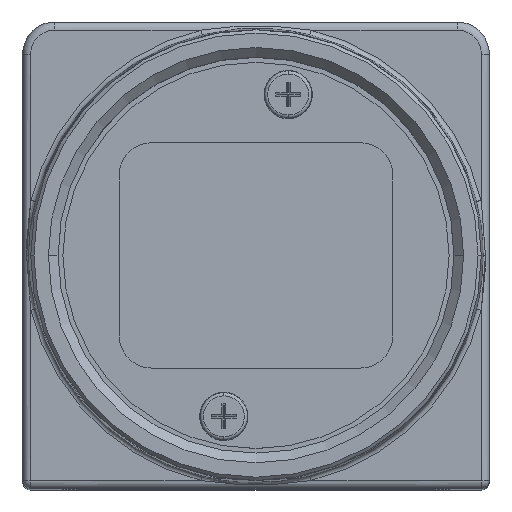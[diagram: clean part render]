
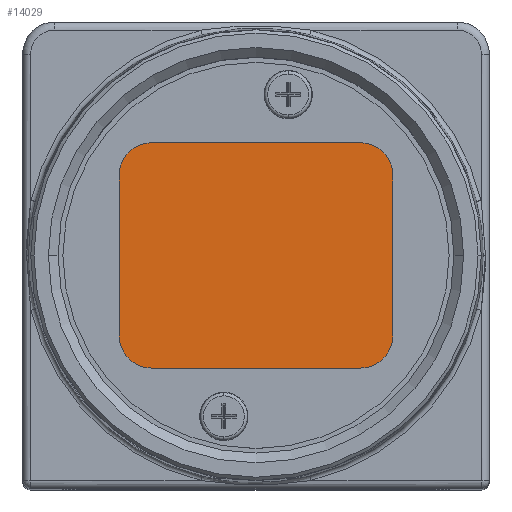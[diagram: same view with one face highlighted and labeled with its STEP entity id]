
A CAD part, top view. The second image highlights one B-rep face of the part: STEP entity #14029.
In plain terms, the highlighted planar face has unit normal (0, 0, 1).
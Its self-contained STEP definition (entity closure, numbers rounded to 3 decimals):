
#2965=DIRECTION('',(0.,-1.,0.));
#2966=VECTOR('',#2965,10.);
#2967=CARTESIAN_POINT('',(8.5,5.,44.5));
#2968=LINE('',#2967,#2966);
#2977=CARTESIAN_POINT('',(-6.5,-5.,44.5));
#2978=DIRECTION('',(0.,0.,1.));
#2979=DIRECTION('',(-1.,0.,0.));
#2980=AXIS2_PLACEMENT_3D('',#2977,#2978,#2979);
#2982=CARTESIAN_POINT('',(-6.5,5.,44.5));
#2983=DIRECTION('',(0.,0.,1.));
#2984=DIRECTION('',(0.,1.,0.));
#2985=AXIS2_PLACEMENT_3D('',#2982,#2983,#2984);
#2987=CARTESIAN_POINT('',(6.5,5.,44.5));
#2988=DIRECTION('',(0.,0.,1.));
#2989=DIRECTION('',(1.,0.,0.));
#2990=AXIS2_PLACEMENT_3D('',#2987,#2988,#2989);
#2992=CARTESIAN_POINT('',(6.5,-5.,44.5));
#2993=DIRECTION('',(0.,0.,1.));
#2994=DIRECTION('',(0.,-1.,0.));
#2995=AXIS2_PLACEMENT_3D('',#2992,#2993,#2994);
#3009=DIRECTION('',(0.,1.,0.));
#3010=VECTOR('',#3009,10.);
#3011=CARTESIAN_POINT('',(-8.5,-5.,44.5));
#3012=LINE('',#3011,#3010);
#3021=DIRECTION('',(1.,0.,0.));
#3022=VECTOR('',#3021,13.);
#3023=CARTESIAN_POINT('',(-6.5,7.,44.5));
#3024=LINE('',#3023,#3022);
#3029=DIRECTION('',(-1.,0.,0.));
#3030=VECTOR('',#3029,13.);
#3031=CARTESIAN_POINT('',(6.5,-7.,44.5));
#3032=LINE('',#3031,#3030);
#7732=CARTESIAN_POINT('',(-8.5,-5.,44.5));
#7733=CARTESIAN_POINT('',(-6.5,-7.,44.5));
#7734=VERTEX_POINT('',#7732);
#7735=VERTEX_POINT('',#7733);
#7736=CARTESIAN_POINT('',(-8.5,5.,44.5));
#7737=VERTEX_POINT('',#7736);
#7738=CARTESIAN_POINT('',(-6.5,7.,44.5));
#7739=VERTEX_POINT('',#7738);
#7740=CARTESIAN_POINT('',(6.5,7.,44.5));
#7741=VERTEX_POINT('',#7740);
#7742=CARTESIAN_POINT('',(8.5,5.,44.5));
#7743=VERTEX_POINT('',#7742);
#7744=CARTESIAN_POINT('',(8.5,-5.,44.5));
#7745=VERTEX_POINT('',#7744);
#7746=CARTESIAN_POINT('',(6.5,-7.,44.5));
#7747=VERTEX_POINT('',#7746);
#14008=CARTESIAN_POINT('',(0.,0.,44.5));
#14009=DIRECTION('',(0.,0.,1.));
#14010=DIRECTION('',(1.,0.,0.));
#14011=AXIS2_PLACEMENT_3D('',#14008,#14009,#14010);
#14012=PLANE('',#14011);
#14014=ORIENTED_EDGE('',*,*,#14013,.F.);
#14016=ORIENTED_EDGE('',*,*,#14015,.T.);
#14018=ORIENTED_EDGE('',*,*,#14017,.F.);
#14020=ORIENTED_EDGE('',*,*,#14019,.T.);
#14021=ORIENTED_EDGE('',*,*,#13993,.F.);
#14022=ORIENTED_EDGE('',*,*,#13975,.T.);
#14024=ORIENTED_EDGE('',*,*,#14023,.F.);
#14026=ORIENTED_EDGE('',*,*,#14025,.T.);
#14027=EDGE_LOOP('',(#14014,#14016,#14018,#14020,#14021,#14022,#14024,#14026));
#14028=FACE_OUTER_BOUND('',#14027,.F.);
#2981=CIRCLE('',#2980,2.);
#2986=CIRCLE('',#2985,2.);
#2991=CIRCLE('',#2990,2.);
#2996=CIRCLE('',#2995,2.);
#13975=EDGE_CURVE('',#7743,#7745,#2968,.T.);
#13993=EDGE_CURVE('',#7743,#7741,#2991,.T.);
#14013=EDGE_CURVE('',#7734,#7735,#2981,.T.);
#14015=EDGE_CURVE('',#7734,#7737,#3012,.T.);
#14017=EDGE_CURVE('',#7739,#7737,#2986,.T.);
#14019=EDGE_CURVE('',#7739,#7741,#3024,.T.);
#14023=EDGE_CURVE('',#7747,#7745,#2996,.T.);
#14025=EDGE_CURVE('',#7747,#7735,#3032,.T.);
#14029=ADVANCED_FACE('',(#14028),#14012,.T.);
